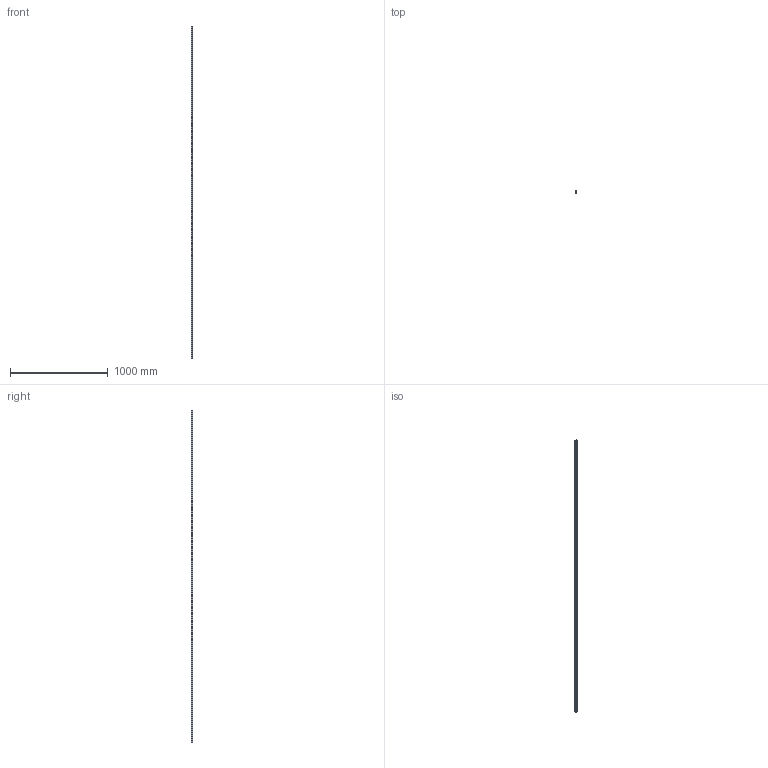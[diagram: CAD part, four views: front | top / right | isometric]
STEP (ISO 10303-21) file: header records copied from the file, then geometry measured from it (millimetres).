
FILE_DESCRIPTION (( 'STEP AP203' ), '1' );
FILE_NAME ('L1016.BL20-3400.step', '2019-06-12T11:56:56', ( '' ), ( '' ), 'SwSTEP 2.0', 'SolidWorks 2017', '' );
FILE_SCHEMA (( 'CONFIG_CONTROL_DESIGN' ));
Length unit declared in the file: millimetre
Products named in the file (1): L1016.BL20-3400
Bounding box: 20 x 16.3 x 3400 mm (x, y, z)
Volume: 945146.6 mm3; surface area: 273374.5 mm2
Topology: 1 solids, 1 shells, 311 faces, 756 edges, 504 vertices
Faces by surface type: cylinder 232, plane 79
Entity records: 9679 total; most frequent: DIRECTION 1844, CARTESIAN_POINT 1572, ORIENTED_EDGE 1512, AXIS2_PLACEMENT_3D 776, EDGE_CURVE 756, VERTEX_POINT 504, EDGE_LOOP 482, CIRCLE 464
